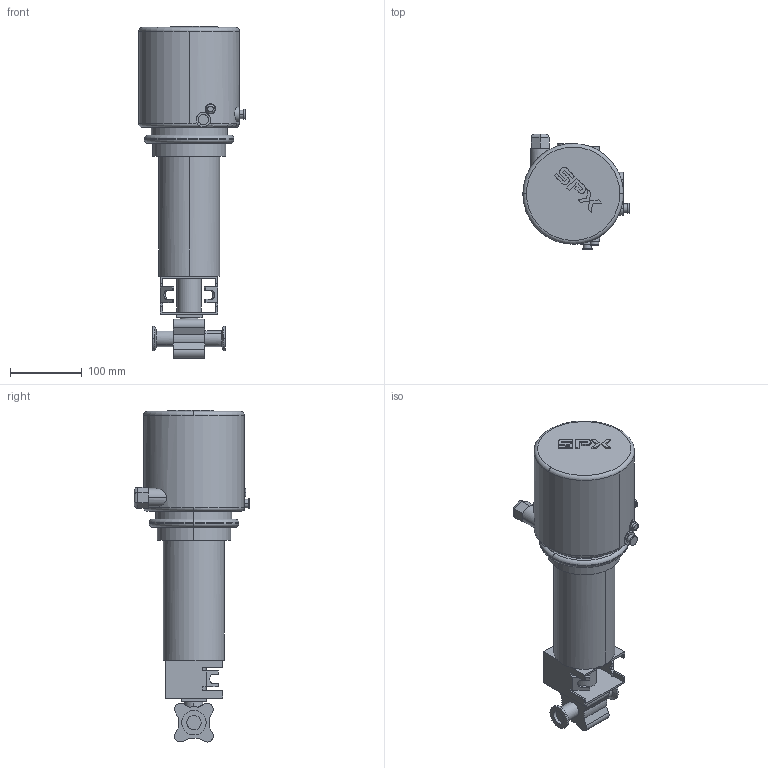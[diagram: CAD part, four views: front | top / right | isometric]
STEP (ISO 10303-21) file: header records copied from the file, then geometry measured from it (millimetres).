
FILE_DESCRIPTION(('Creo Elements/Direct Modeling STEP Export'),'2;1');
FILE_NAME('BLV1-DN20-NC-12CL-CU4.stp','2019-05-09T13:49:43',(''),(''),'Creo Elements/Direct Modeling STEP processor for AP214 (Solid Model)','Creo Elements/Direct Modeling 19.0F 14-Feb-2017 (C) Parametric Technology GmbH','');
FILE_SCHEMA(('AUTOMOTIVE_DESIGN { 1 0 10303 214 1 1 1 1 }'));
Length unit declared in the file: millimetre
Products named in the file (2): BLV1-DN20-NC-12CL-CU4
Assembly tree (1 placements, depth 2):
  BLV1-DN20-NC-12CL-CU4
    BLV1-DN20-NC-12CL-CU4
Bounding box: 148 x 161.4 x 462.43 mm (x, y, z)
Volume: 3691463.1 mm3; surface area: 225487.1 mm2
Topology: 1 solids, 1 shells, 236 faces, 606 edges, 395 vertices
Faces by surface type: plane 104, cylinder 85, extrusion 33, torus 10, cone 4
Entity records: 10447 total; most frequent: CARTESIAN_POINT 5081, ORIENTED_EDGE 1214, DIRECTION 938, EDGE_CURVE 607, VERTEX_POINT 395, VECTOR 320, AXIS2_PLACEMENT_3D 309, LINE 287
